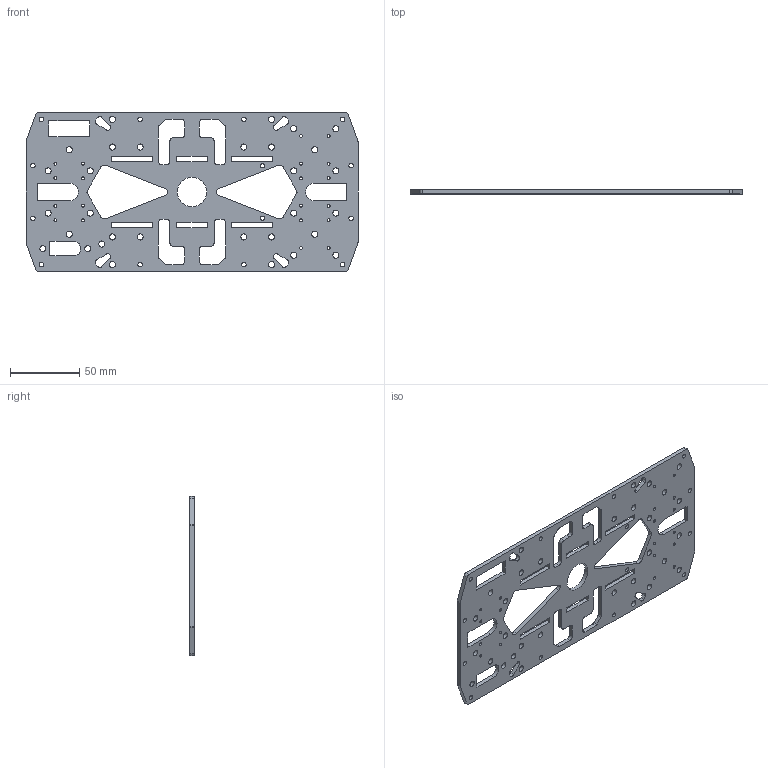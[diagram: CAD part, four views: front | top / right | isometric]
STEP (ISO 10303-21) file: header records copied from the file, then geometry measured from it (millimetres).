
FILE_DESCRIPTION(/* description */ ('STEP AP242','CAx-IF Rec.Pracs.---Representation and Presentation of Product Manufacturing Information (PMI)---4.0---2014-10-13','CAx-IF Rec.Pracs.---3D Tessellated Geometry---0.4---2014-09-14','2;1'),/* implementation_level */ '2;1');
FILE_NAME(/* name */ '679bb11c5e1bcc04624b9e7c',/* time_stamp */ '2025-01-30T17:04:29Z',/* author */ (''),/* organization */ (''),/* preprocessor_version */ 'ST-DEVELOPER v20',/* originating_system */ 'ONSHAPE BY PTC INC, 1.192',/* authorisation */ ' ');
FILE_SCHEMA (('AP242_MANAGED_MODEL_BASED_3D_ENGINEERING_MIM_LF { 1 0 10303 442 1 1 4 }'));
Length unit declared in the file: metre
Products named in the file (1): Plaque_sup
Bounding box: 240 x 3 x 115 mm (x, y, z)
Volume: 59915.4 mm3; surface area: 48742 mm2
Topology: 1 solids, 1 shells, 221 faces, 657 edges, 438 vertices
Faces by surface type: cylinder 125, plane 96
Full cylindrical faces by diameter (mm): 2.1 x20, 3.2 x14, 4.4 x30, 21.134 x1
Entity records: 7542 total; most frequent: DIRECTION 1286, CARTESIAN_POINT 1252, ORIENTED_EDGE 1184, EDGE_CURVE 592, AXIS2_PLACEMENT_3D 472, EDGE_LOOP 458, FACE_BOUND 458, VERTEX_POINT 438
